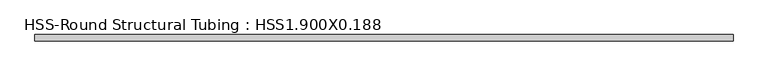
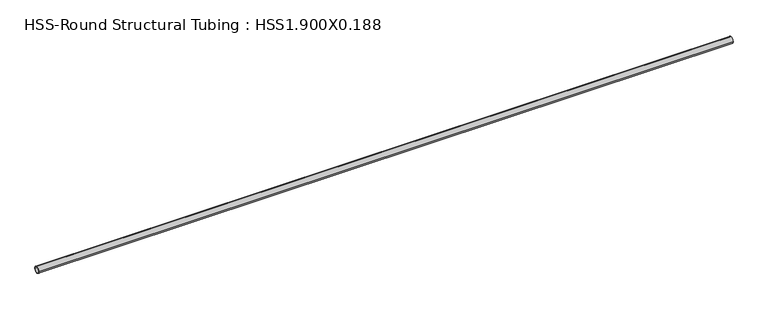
"""IFC4 building model written with IfcOpenShell, lengths in millimetres: member geometry, HSS-Round Structural Tubing : HSS1.900X0.188."""

from ifc_helpers import new_model, si_unit, point, frame, origin, origin_2d, place, context, project, spatial, circle_curve, trimmed, segment, composite_curve, outline, extrude, source, transform, mapped, element, save


def hss_round_structural_tubing_hss1_900x0_188_b26e8f7a(model_context):
    return source(origin(), model_context, "Body", "SweptSolid", [
        extrude(outline(composite_curve([segment(trimmed(circle_curve(origin_2d(), 24.13), [point((-24.13, 0.0))], [point((24.13, 0.0))], False, "CARTESIAN"), True, "CONTINUOUS"), segment(trimmed(circle_curve(origin_2d(), 24.13), [point((24.13, 0.0))], [point((-24.13, 0.0))], False, "CARTESIAN"), True, "CONTINUOUS")], self_intersect=False), holes=[composite_curve([segment(trimmed(circle_curve(origin_2d(), 19.7104), [point((19.7104, 0.0))], [point((-19.7104, 0.0))], True, "CARTESIAN"), True, "CONTINUOUS"), segment(trimmed(circle_curve(origin_2d(), 19.7104), [point((-19.7104, 0.0))], [point((19.7104, 0.0))], True, "CARTESIAN"), True, "CONTINUOUS")], self_intersect=False)]), frame((-2585.8479774, 0.0, 0.0), z_axis=(1.0, 0.0, 0.0), x_axis=(0.0, 1.0, 0.0)), (0.0, 0.0, 1.0), 5139.611762),
    ])


if __name__ == "__main__":
    model = new_model("IFC4")
    model_context = context("Model", 3, world=origin())
    ifc_project = project(units=[si_unit("LENGTHUNIT", "METRE", prefix="MILLI")], contexts=[model_context])
    site = spatial("IfcSite", under=ifc_project)
    building = spatial("IfcBuilding", under=site)
    placement = place(None, origin())
    hss_round_structural_tubing_hss1_900x0_188_shape = hss_round_structural_tubing_hss1_900x0_188_b26e8f7a(model_context)
    element("IfcMember", 1, ObjectType="HSS-Round Structural Tubing : HSS1.900X0.188", at=placement, inside=building, context=model_context, shape_type="MappedRepresentation", body=[
        mapped(hss_round_structural_tubing_hss1_900x0_188_shape, transform((0.0, 0.0, 0.0), x_axis=(1.0, 0.0, 0.0), y_axis=(0.0, 1.0, 0.0), z_axis=(0.0, 0.0, 1.0))),
    ])
    save(model, "model.ifc")
